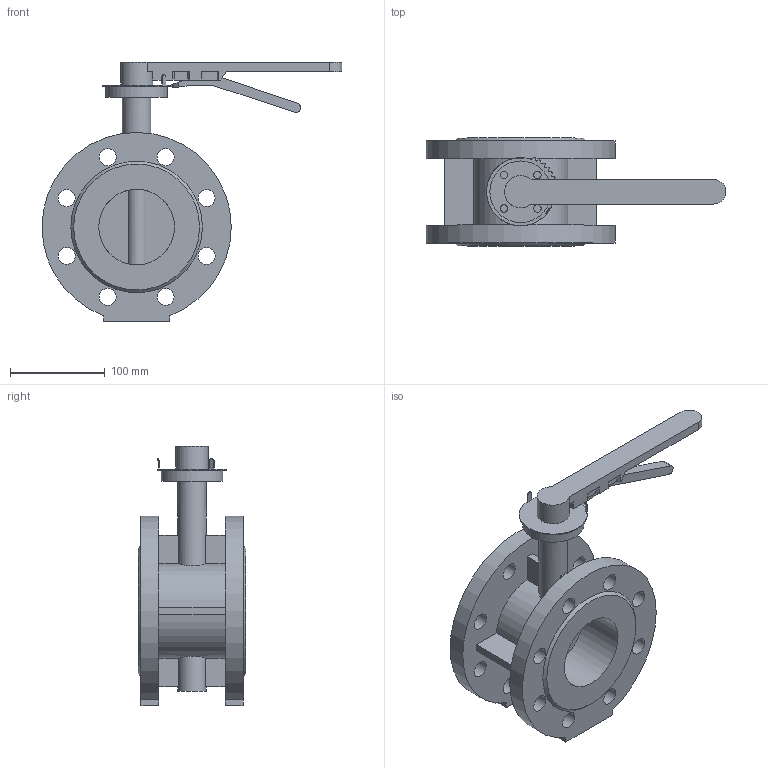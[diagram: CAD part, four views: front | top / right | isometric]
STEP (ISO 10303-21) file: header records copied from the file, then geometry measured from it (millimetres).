
FILE_DESCRIPTION(('STEP AP203'), '1');
FILE_NAME('Çàòâîð 021F.Y DN80 +ðóêîÿòêà', '', ('UNSPECIFIED'), ('UNSPECIFIED'), 'ASCON STEP Converter 1.6', 'ASCON Math Kernel', '');
FILE_SCHEMA(('CONFIG_CONTROL_DESIGN'));
Length unit declared in the file: millimetre
Bounding box: 317 x 114 x 274 mm (x, y, z)
Volume: 1529818.1 mm3; surface area: 250183.4 mm2
Topology: 1 solids, 1 shells, 172 faces, 468 edges, 311 vertices
Faces by surface type: plane 105, cylinder 65, cone 2
Full cylindrical faces by diameter (mm): 8 x4, 18 x16, 30 x2, 34 x1, 65 x1, 80 x2
Entity records: 7789 total; most frequent: CARTESIAN_POINT 1975, DIRECTION 901, ORIENTED_EDGE 880, EDGE_CURVE 440, VERTEX_POINT 311, AXIS2_PLACEMENT_3D 307, LINE 287, VECTOR 287
